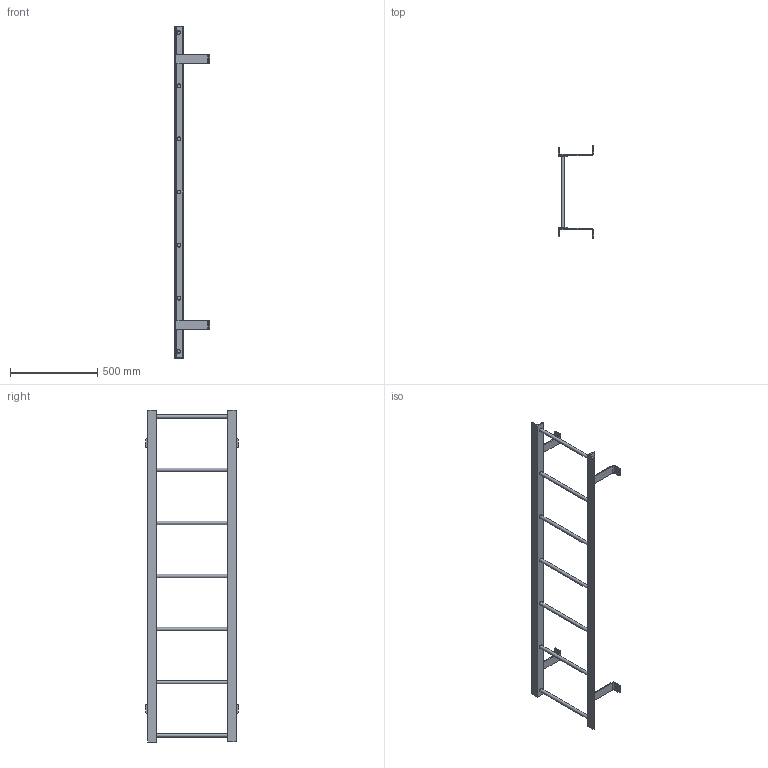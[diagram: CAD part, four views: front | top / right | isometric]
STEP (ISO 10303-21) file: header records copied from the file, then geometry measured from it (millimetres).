
FILE_DESCRIPTION(/* description */ (''),/* implementation_level */ '2;1');
FILE_NAME(/* name */ 'P:\MIKEL & KAREN\3570207 F7S SIMPLIFIED PART .stp',/* time_stamp */ '2018-07-02T15:21:02-04:00',/* author */ ('stephanie'),/* organization */ (''),/* preprocessor_version */ 'ST-DEVELOPER v16.1',/* originating_system */ 'Autodesk Inventor 2016',/* authorisation */ '');
FILE_SCHEMA (('AUTOMOTIVE_DESIGN { 1 0 10303 214 3 1 1 }'));
Length unit declared in the file: centimetre
Products named in the file (1): 3570207 F7S SIMPLIFIED PART 
Bounding box: 203.33 x 533.25 x 1905 mm (x, y, z)
Volume: 3429279.5 mm3; surface area: 1027472.3 mm2
Topology: 9 solids, 9 shells, 115 faces, 301 edges, 204 vertices
Faces by surface type: plane 67, cylinder 48
Full cylindrical faces by diameter (mm): 14.287 x4, 19.05 x7, 22.225 x14
Entity records: 3516 total; most frequent: DIRECTION 594, CARTESIAN_POINT 560, ORIENTED_EDGE 516, EDGE_CURVE 258, AXIS2_PLACEMENT_3D 220, VERTEX_POINT 186, EDGE_LOOP 176, LINE 154
